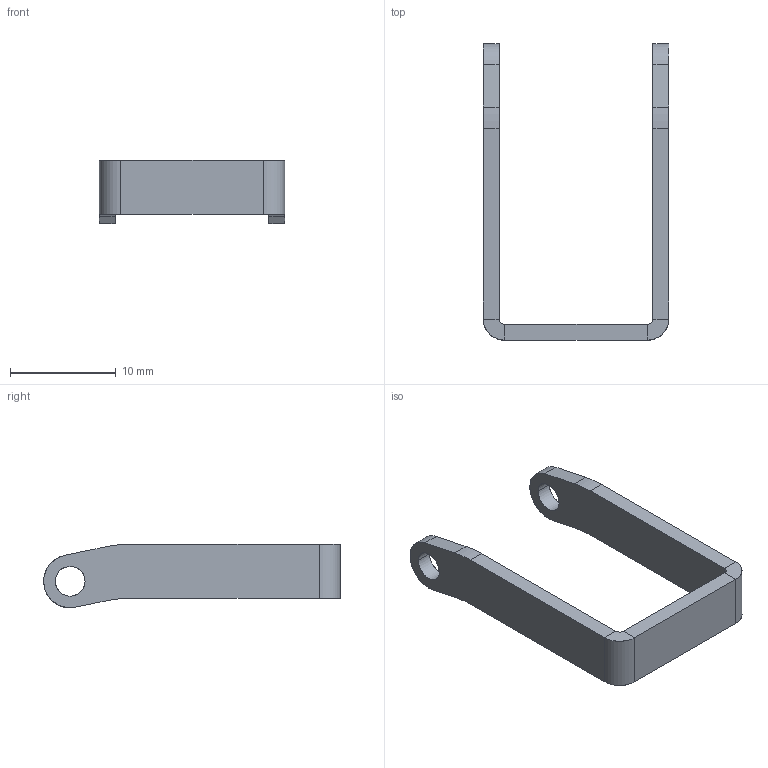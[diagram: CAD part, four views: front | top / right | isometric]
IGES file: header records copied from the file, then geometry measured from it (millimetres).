
Start section: SolidWorks IGES FILE using analytic representation for surfaces
Global section: file name: C:\Documents and Settings\brechard\Bureau\GP 10\10.030.10.IGS; native system: SolidWorks 2001Plus by SolidWorks Corporation; preprocessor: Version 5.3; author: brechard; date: 050126.143859; units: millimetre
Bounding box: 17.5 x 28 x 6 mm (x, y, z)
Surface area: 916.8 mm2 (no closed solid volume)
Topology: 0 solids, 0 shells, 35 faces, 384 edges, 384 vertices
Faces by surface type: bspline 20, revolution 15
